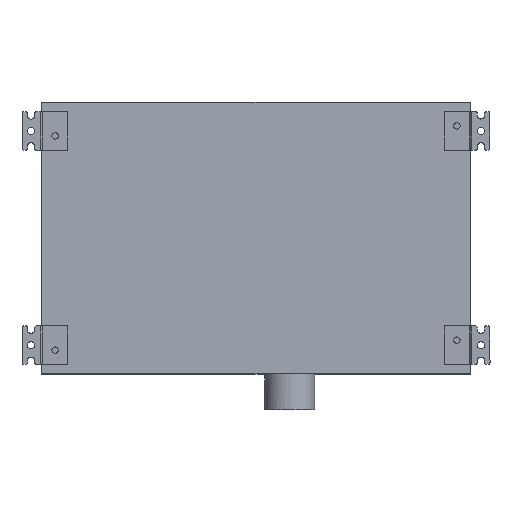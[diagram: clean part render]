
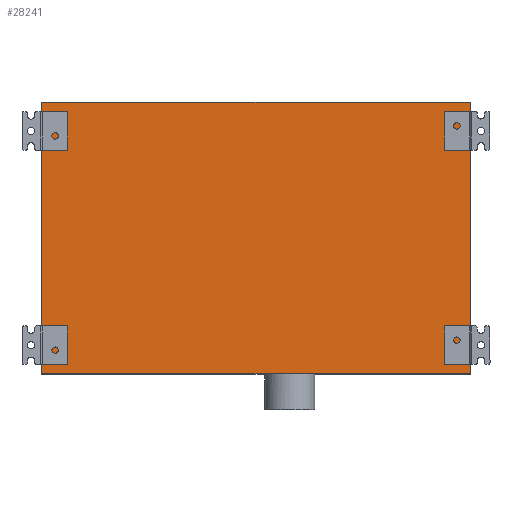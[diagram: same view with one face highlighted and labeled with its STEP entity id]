
A CAD part, top view. The second image highlights one B-rep face of the part: STEP entity #28241.
In plain terms, the highlighted planar face has unit normal (0, 0, 1) as drawn and (0, 0, -1) by its records, which use the part's own axes.
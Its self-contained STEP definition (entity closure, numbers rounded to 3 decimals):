
#2014=PLANE('',#29839);
#2855=VECTOR('',#32466,1.);
#2863=VECTOR('',#32518,1.);
#2871=VECTOR('',#32528,1.);
#2872=VECTOR('',#32529,1.);
#5414=LINE('',#39214,#2855);
#5422=LINE('',#39267,#2863);
#5430=LINE('',#39285,#2871);
#5431=LINE('',#39286,#2872);
#7994=VERTEX_POINT('',#39215);
#7995=VERTEX_POINT('',#39216);
#8016=VERTEX_POINT('',#39268);
#8017=VERTEX_POINT('',#39269);
#11909=EDGE_CURVE('',#7994,#7995,#5414,.T.);
#11931=EDGE_CURVE('',#8016,#8017,#5422,.T.);
#11939=EDGE_CURVE('',#8016,#7994,#5430,.T.);
#11940=EDGE_CURVE('',#8017,#7995,#5431,.T.);
#16289=ORIENTED_EDGE('',*,*,#11939,.T.);
#16290=ORIENTED_EDGE('',*,*,#11909,.T.);
#16291=ORIENTED_EDGE('',*,*,#11940,.F.);
#16292=ORIENTED_EDGE('',*,*,#11931,.F.);
#24874=EDGE_LOOP('',(#16289,#16290,#16291,#16292));
#26577=FACE_BOUND('',#24874,.T.);
#28241=ADVANCED_FACE('',(#26577),#2014,.F.);
#29839=AXIS2_PLACEMENT_3D('',#39284,#32527,$);
#32466=DIRECTION('',(-1.,0.,0.));
#32518=DIRECTION('',(-1.,0.,0.));
#32527=DIRECTION('',(0.,0.,1.));
#32528=DIRECTION('',(0.,-1.,0.));
#32529=DIRECTION('',(0.,-1.,0.));
#39214=CARTESIAN_POINT('',(300.,0.,-105.));
#39215=CARTESIAN_POINT('',(300.,0.,-105.));
#39216=CARTESIAN_POINT('',(-300.,0.,-105.));
#39267=CARTESIAN_POINT('',(300.,380.,-105.));
#39268=CARTESIAN_POINT('',(300.,380.,-105.));
#39269=CARTESIAN_POINT('',(-300.,380.,-105.));
#39284=CARTESIAN_POINT('',(300.,380.,-105.));
#39285=CARTESIAN_POINT('',(300.,380.,-105.));
#39286=CARTESIAN_POINT('',(-300.,380.,-105.));
